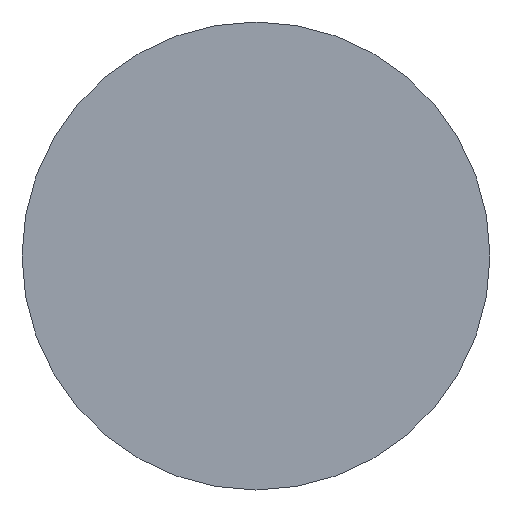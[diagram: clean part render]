
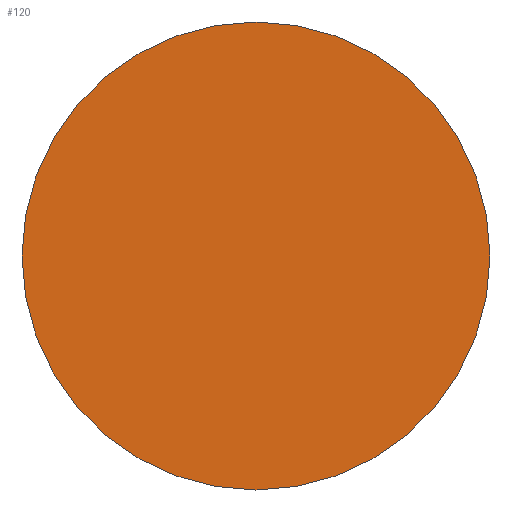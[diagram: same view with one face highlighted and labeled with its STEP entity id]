
A CAD part, left-side view. The second image highlights one B-rep face of the part: STEP entity #120.
In plain terms, the highlighted planar face has unit normal (-1, 0, 0).
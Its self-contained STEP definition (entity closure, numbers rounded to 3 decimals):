
#6 = EDGE_CURVE ( 'NONE', #76, #74, #56, .T. ) ;
#9 = AXIS2_PLACEMENT_3D ( 'NONE', #108, #107, #106 ) ;
#15 = EDGE_CURVE ( 'NONE', #74, #76, #59, .T. ) ;
#18 = AXIS2_PLACEMENT_3D ( 'NONE', #100, #91, #90 ) ;
#22 = AXIS2_PLACEMENT_3D ( 'NONE', #134, #121, #122 ) ;
#34 = ORIENTED_EDGE ( 'NONE', *, *, #6, .T. ) ;
#40 = EDGE_LOOP ( 'NONE', ( #34, #43 ) ) ;
#43 = ORIENTED_EDGE ( 'NONE', *, *, #15, .T. ) ;
#56 = CIRCLE ( 'NONE', #9, 5.5 ) ;
#59 = CIRCLE ( 'NONE', #18, 5.5 ) ;
#61 = FACE_OUTER_BOUND ( 'NONE', #40, .T. ) ;
#74 = VERTEX_POINT ( 'NONE', #89 ) ;
#76 = VERTEX_POINT ( 'NONE', #87 ) ;
#87 = CARTESIAN_POINT ( 'NONE',  ( -142., 0., 5.5 ) ) ;
#89 = CARTESIAN_POINT ( 'NONE',  ( -142., 0., -5.5 ) ) ;
#90 = DIRECTION ( 'NONE',  ( 0., 0., 1. ) ) ;
#91 = DIRECTION ( 'NONE',  ( -1., 0., 0. ) ) ;
#100 = CARTESIAN_POINT ( 'NONE',  ( -142., 0., 0. ) ) ;
#106 = DIRECTION ( 'NONE',  ( 0., 0., 1. ) ) ;
#107 = DIRECTION ( 'NONE',  ( -1., 0., 0. ) ) ;
#108 = CARTESIAN_POINT ( 'NONE',  ( -142., 0., 0. ) ) ;
#120 = ADVANCED_FACE ( 'NONE', ( #61 ), #128, .T. ) ;
#121 = DIRECTION ( 'NONE',  ( -1., 0., 0. ) ) ;
#122 = DIRECTION ( 'NONE',  ( 0., 0., 1. ) ) ;
#128 = PLANE ( 'NONE',  #22 ) ;
#134 = CARTESIAN_POINT ( 'NONE',  ( -142., 0., 0. ) ) ;
